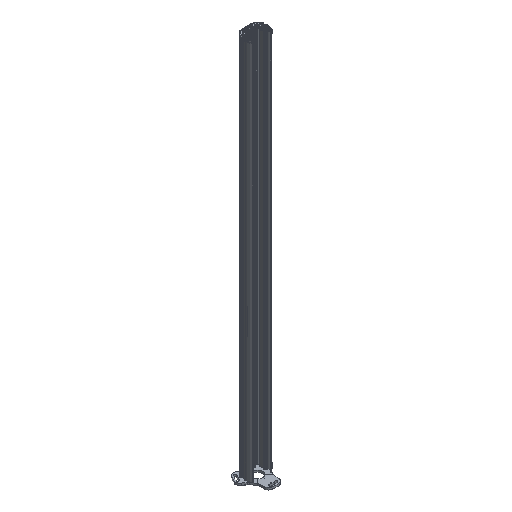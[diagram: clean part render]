
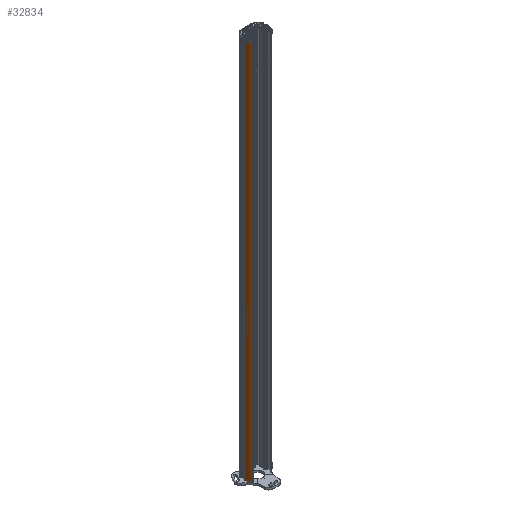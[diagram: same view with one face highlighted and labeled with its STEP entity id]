
A CAD part, isometric view. The second image highlights one B-rep face of the part: STEP entity #32834.
In plain terms, the highlighted cylindrical face has radius 55 mm (diameter 110 mm), a partial arc.
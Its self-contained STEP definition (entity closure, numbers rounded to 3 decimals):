
#2402=CYLINDRICAL_SURFACE('',#35408,55.);
#3104=FACE_OUTER_BOUND('',#5307,.T.);
#5307=EDGE_LOOP('',(#22106,#22107,#22108,#22109));
#7635=LINE('',#49958,#9620);
#7637=LINE('',#49962,#9622);
#9620=VECTOR('',#39731,10.);
#9622=VECTOR('',#39735,10.);
#11564=CIRCLE('',#35324,55.);
#11638=CIRCLE('',#35409,55.);
#13656=VERTEX_POINT('',#49693);
#13657=VERTEX_POINT('',#49695);
#13778=VERTEX_POINT('',#49957);
#13779=VERTEX_POINT('',#49961);
#16742=EDGE_CURVE('',#13657,#13656,#11564,.T.);
#16873=EDGE_CURVE('',#13778,#13657,#7635,.T.);
#16875=EDGE_CURVE('',#13779,#13656,#7637,.T.);
#16876=EDGE_CURVE('',#13779,#13778,#11638,.T.);
#22106=ORIENTED_EDGE('',*,*,#16742,.T.);
#22107=ORIENTED_EDGE('',*,*,#16875,.F.);
#22108=ORIENTED_EDGE('',*,*,#16876,.T.);
#22109=ORIENTED_EDGE('',*,*,#16873,.T.);
#32834=ADVANCED_FACE('',(#3104),#2402,.T.);
#35324=AXIS2_PLACEMENT_3D('',#49696,#39506,#39507);
#35408=AXIS2_PLACEMENT_3D('',#49960,#39733,#39734);
#35409=AXIS2_PLACEMENT_3D('',#49963,#39736,#39737);
#39506=DIRECTION('center_axis',(0.,0.,
-1.));
#39507=DIRECTION('ref_axis',(-1.,0.,0.));
#39731=DIRECTION('',(0.,0.,1.));
#39733=DIRECTION('center_axis',(0.,0.,
-1.));
#39734=DIRECTION('ref_axis',(-1.,0.,0.));
#39735=DIRECTION('',(0.,0.,1.));
#39736=DIRECTION('center_axis',(0.,0.,
1.));
#39737=DIRECTION('ref_axis',(-1.,0.,0.));
#49693=CARTESIAN_POINT('',(-41.098,55.176,632.5));
#49695=CARTESIAN_POINT('',(-48.,28.5,632.5));
#49696=CARTESIAN_POINT('Origin',(7.,28.5,632.5));
#49957=CARTESIAN_POINT('',(-48.,28.5,-1025.));
#49958=CARTESIAN_POINT('',(-48.,28.5,0.));
#49960=CARTESIAN_POINT('Origin',(7.,28.5,0.));
#49961=CARTESIAN_POINT('',(-41.098,55.176,-1025.));
#49962=CARTESIAN_POINT('',(-41.098,55.176,0.));
#49963=CARTESIAN_POINT('Origin',(7.,28.5,-1025.));
